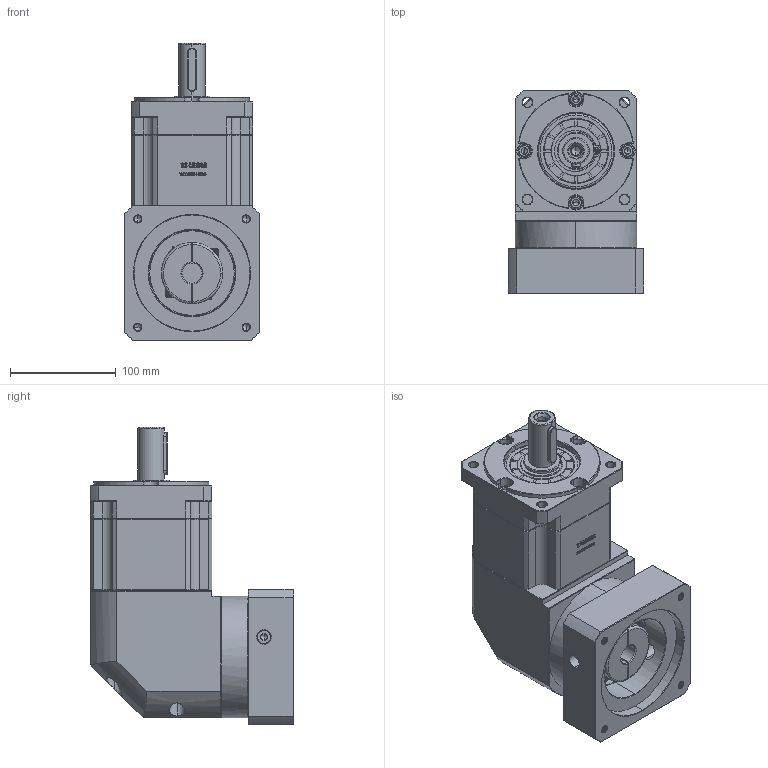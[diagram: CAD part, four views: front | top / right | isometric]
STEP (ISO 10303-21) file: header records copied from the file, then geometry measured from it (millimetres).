
FILE_DESCRIPTION (( 'STEP AP214' ), '1' );
FILE_NAME ('ZBR115A-D25-L2-19-110-145-M8.step', '2023-03-03T04:56:08', ( '' ), ( 'Microsoft' ), 'SwSTEP 2.0', 'SolidWorks 2016', '' );
FILE_SCHEMA (( 'AUTOMOTIVE_DESIGN' ));
Length unit declared in the file: millimetre
Products named in the file (1): ZBR115A-D25-L2-19-110-145-M8
Bounding box: 128 x 192.4 x 281.5 mm (x, y, z)
Volume: 3372156.3 mm3; surface area: 266457.6 mm2
Topology: 6 solids, 6 shells, 2981 faces, 7904 edges, 5069 vertices
Faces by surface type: plane 1559, bspline 607, cylinder 439, cone 368, torus 8
Entity records: 161683 total; most frequent: CARTESIAN_POINT 59803, ORIENTED_EDGE 15748, DIRECTION 11917, EDGE_CURVE 7874, LINE 5305, VECTOR 5305, VERTEX_POINT 5069, AXIS2_PLACEMENT_3D 3306
